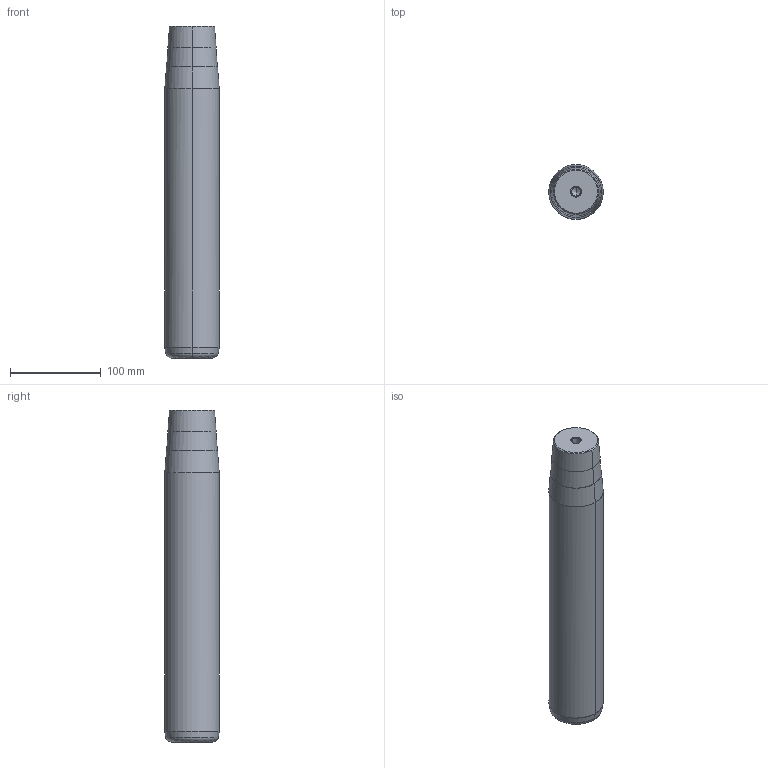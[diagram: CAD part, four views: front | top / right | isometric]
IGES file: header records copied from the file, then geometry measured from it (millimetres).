
Start section: START RECORD GO HERE.
Global section: file name: 722-60x315x366.igs; native system: DASSAULT SYSTEMES CATIA V5 R20 - www.3ds.com; preprocessor: CATIA Version 5 Release 20 ; author: Utente; organization: NB04-ASUS; date: 20210107.202838; units: millimetre
Bounding box: 60 x 60 x 366 mm (x, y, z)
Surface area: 73736.6 mm2 (no closed solid volume)
Topology: 0 solids, 0 shells, 32 faces, 192 edges, 188 vertices
Faces by surface type: revolution 30, plane 2
